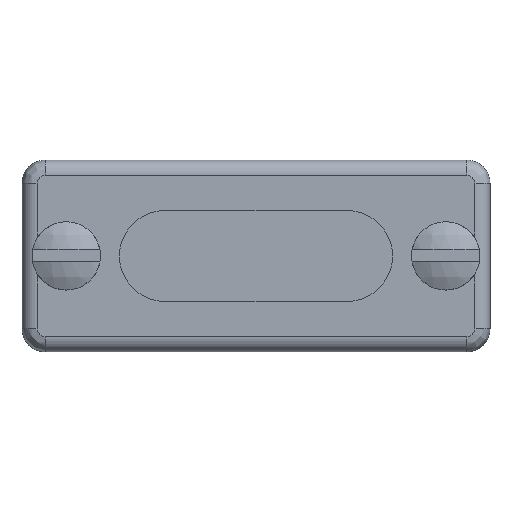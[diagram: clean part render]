
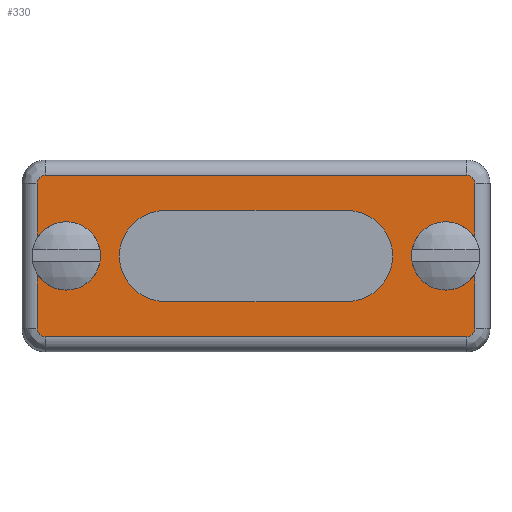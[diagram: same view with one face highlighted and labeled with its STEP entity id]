
A CAD part, top view. The second image highlights one B-rep face of the part: STEP entity #330.
In plain terms, the highlighted planar face has unit normal (0, 0, 1).
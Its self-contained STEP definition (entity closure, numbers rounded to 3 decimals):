
#119=FACE_BOUND('',#945,.T.);
#120=FACE_BOUND('',#946,.T.);
#159=PLANE('',#4485);
#330=ADVANCED_FACE('',(#119,#120),#159,.T.);
#945=EDGE_LOOP('',(#2057,#2058,#2059,#2060,#2061));
#946=EDGE_LOOP('',(#2062,#2063,#2064,#2065,#2066,#2067,#2068,#2069,#2070,
#2071,#2072,#2073,#2074,#2075));
#1224=LINE('',#6426,#1557);
#1225=LINE('',#6429,#1558);
#1226=LINE('',#6430,#1559);
#1227=LINE('',#6434,#1560);
#1228=LINE('',#6438,#1561);
#1229=LINE('',#6441,#1562);
#1230=LINE('',#6445,#1563);
#1231=LINE('',#6449,#1564);
#1557=VECTOR('',#5160,1.);
#1558=VECTOR('',#5163,1.);
#1559=VECTOR('',#5164,1.);
#1560=VECTOR('',#5167,1.);
#1561=VECTOR('',#5170,1.);
#1562=VECTOR('',#5173,1.);
#1563=VECTOR('',#5176,1.);
#1564=VECTOR('',#5179,1.);
#2057=ORIENTED_EDGE('',*,*,#3621,.F.);
#2058=ORIENTED_EDGE('',*,*,#3622,.F.);
#2059=ORIENTED_EDGE('',*,*,#3508,.F.);
#2060=ORIENTED_EDGE('',*,*,#3623,.F.);
#2061=ORIENTED_EDGE('',*,*,#3624,.F.);
#2062=ORIENTED_EDGE('',*,*,#3617,.T.);
#2063=ORIENTED_EDGE('',*,*,#3510,.T.);
#2064=ORIENTED_EDGE('',*,*,#3625,.T.);
#2065=ORIENTED_EDGE('',*,*,#3626,.T.);
#2066=ORIENTED_EDGE('',*,*,#3627,.T.);
#2067=ORIENTED_EDGE('',*,*,#3628,.T.);
#2068=ORIENTED_EDGE('',*,*,#3629,.T.);
#2069=ORIENTED_EDGE('',*,*,#3527,.T.);
#2070=ORIENTED_EDGE('',*,*,#3630,.T.);
#2071=ORIENTED_EDGE('',*,*,#3631,.T.);
#2072=ORIENTED_EDGE('',*,*,#3632,.T.);
#2073=ORIENTED_EDGE('',*,*,#3633,.T.);
#2074=ORIENTED_EDGE('',*,*,#3634,.T.);
#2075=ORIENTED_EDGE('',*,*,#3635,.T.);
#3105=VERTEX_POINT('',#6184);
#3106=VERTEX_POINT('',#6186);
#3107=VERTEX_POINT('',#6190);
#3108=VERTEX_POINT('',#6191);
#3117=VERTEX_POINT('',#6210);
#3124=VERTEX_POINT('',#6224);
#3187=VERTEX_POINT('',#6416);
#3188=VERTEX_POINT('',#6424);
#3189=VERTEX_POINT('',#6425);
#3190=VERTEX_POINT('',#6428);
#3191=VERTEX_POINT('',#6431);
#3192=VERTEX_POINT('',#6433);
#3193=VERTEX_POINT('',#6435);
#3194=VERTEX_POINT('',#6437);
#3195=VERTEX_POINT('',#6440);
#3196=VERTEX_POINT('',#6442);
#3197=VERTEX_POINT('',#6444);
#3198=VERTEX_POINT('',#6446);
#3199=VERTEX_POINT('',#6448);
#3508=EDGE_CURVE('',#3105,#3106,#4115,.T.);
#3510=EDGE_CURVE('',#3107,#3108,#4116,.T.);
#3527=EDGE_CURVE('',#3117,#3124,#4125,.T.);
#3617=EDGE_CURVE('',#3187,#3107,#4179,.T.);
#3621=EDGE_CURVE('',#3188,#3189,#4182,.T.);
#3622=EDGE_CURVE('',#3106,#3188,#1224,.T.);
#3623=EDGE_CURVE('',#3190,#3105,#4183,.T.);
#3624=EDGE_CURVE('',#3189,#3190,#1225,.T.);
#3625=EDGE_CURVE('',#3108,#3191,#1226,.T.);
#3626=EDGE_CURVE('',#3191,#3192,#4184,.T.);
#3627=EDGE_CURVE('',#3192,#3193,#1227,.T.);
#3628=EDGE_CURVE('',#3193,#3194,#4185,.T.);
#3629=EDGE_CURVE('',#3194,#3117,#1228,.T.);
#3630=EDGE_CURVE('',#3124,#3195,#4186,.T.);
#3631=EDGE_CURVE('',#3195,#3196,#1229,.T.);
#3632=EDGE_CURVE('',#3196,#3197,#4187,.T.);
#3633=EDGE_CURVE('',#3197,#3198,#1230,.T.);
#3634=EDGE_CURVE('',#3198,#3199,#4188,.T.);
#3635=EDGE_CURVE('',#3199,#3187,#1231,.T.);
#4115=CIRCLE('',#4368,3.);
#4116=CIRCLE('',#4370,2.25);
#4125=CIRCLE('',#4380,2.25);
#4179=CIRCLE('',#4472,2.25);
#4182=CIRCLE('',#4478,3.);
#4183=CIRCLE('',#4479,3.);
#4184=CIRCLE('',#4480,0.517);
#4185=CIRCLE('',#4481,0.517);
#4186=CIRCLE('',#4482,2.25);
#4187=CIRCLE('',#4483,0.517);
#4188=CIRCLE('',#4484,0.517);
#4368=AXIS2_PLACEMENT_3D('',#6185,#4892,#4893);
#4370=AXIS2_PLACEMENT_3D('',#6189,#4897,#4898);
#4380=AXIS2_PLACEMENT_3D('',#6225,#4925,#4926);
#4472=AXIS2_PLACEMENT_3D('',#6415,#5145,#5146);
#4478=AXIS2_PLACEMENT_3D('',#6423,#5158,#5159);
#4479=AXIS2_PLACEMENT_3D('',#6427,#5161,#5162);
#4480=AXIS2_PLACEMENT_3D('',#6432,#5165,#5166);
#4481=AXIS2_PLACEMENT_3D('',#6436,#5168,#5169);
#4482=AXIS2_PLACEMENT_3D('',#6439,#5171,#5172);
#4483=AXIS2_PLACEMENT_3D('',#6443,#5174,#5175);
#4484=AXIS2_PLACEMENT_3D('',#6447,#5177,#5178);
#4485=AXIS2_PLACEMENT_3D('',#6450,#5180,#5181);
#4892=DIRECTION('',(0.,0.,1.));
#4893=DIRECTION('',(1.,0.,0.));
#4897=DIRECTION('',(0.,0.,-1.));
#4898=DIRECTION('',(1.,0.,0.));
#4925=DIRECTION('',(0.,0.,-1.));
#4926=DIRECTION('',(1.,0.,0.));
#5145=DIRECTION('',(0.,0.,-1.));
#5146=DIRECTION('',(1.,0.,0.));
#5158=DIRECTION('',(0.,0.,1.));
#5159=DIRECTION('',(-1.,0.,0.));
#5160=DIRECTION('',(1.,0.,0.));
#5161=DIRECTION('',(0.,0.,1.));
#5162=DIRECTION('',(1.,0.,0.));
#5163=DIRECTION('',(-1.,0.,0.));
#5164=DIRECTION('',(0.,-1.,0.));
#5165=DIRECTION('',(0.,0.,1.));
#5166=DIRECTION('',(-1.,0.,0.));
#5167=DIRECTION('',(1.,0.,0.));
#5168=DIRECTION('',(0.,0.,1.));
#5169=DIRECTION('',(-1.,0.,0.));
#5170=DIRECTION('',(0.,1.,0.));
#5171=DIRECTION('',(0.,0.,-1.));
#5172=DIRECTION('',(1.,0.,0.));
#5173=DIRECTION('',(0.,1.,0.));
#5174=DIRECTION('',(0.,0.,1.));
#5175=DIRECTION('',(-1.,0.,0.));
#5176=DIRECTION('',(-1.,0.,0.));
#5177=DIRECTION('',(0.,0.,1.));
#5178=DIRECTION('',(-1.,0.,0.));
#5179=DIRECTION('',(0.,-1.,0.));
#5180=DIRECTION('',(0.,0.,1.));
#5181=DIRECTION('',(1.,0.,0.));
#6184=CARTESIAN_POINT('',(-9.,0.,3.));
#6185=CARTESIAN_POINT('',(-6.,0.,3.));
#6186=CARTESIAN_POINT('',(-6.,-3.,3.));
#6189=CARTESIAN_POINT('',(-12.5,0.,3.));
#6190=CARTESIAN_POINT('',(-10.25,0.,3.));
#6191=CARTESIAN_POINT('',(-14.417,-1.177,3.));
#6210=CARTESIAN_POINT('',(14.417,-1.177,3.));
#6224=CARTESIAN_POINT('',(10.25,0.,3.));
#6225=CARTESIAN_POINT('',(12.5,0.,3.));
#6415=CARTESIAN_POINT('',(-12.5,0.,3.));
#6416=CARTESIAN_POINT('',(-14.417,1.177,3.));
#6423=CARTESIAN_POINT('',(6.,0.,3.));
#6424=CARTESIAN_POINT('',(6.,-3.,3.));
#6425=CARTESIAN_POINT('',(6.,3.,3.));
#6426=CARTESIAN_POINT('',(6.,-3.,3.));
#6427=CARTESIAN_POINT('',(-6.,0.,3.));
#6428=CARTESIAN_POINT('',(-6.,3.,3.));
#6429=CARTESIAN_POINT('',(6.,3.,3.));
#6430=CARTESIAN_POINT('',(-14.417,-4.8,3.));
#6431=CARTESIAN_POINT('',(-14.417,-4.8,3.));
#6432=CARTESIAN_POINT('',(-13.9,-4.8,3.));
#6433=CARTESIAN_POINT('',(-13.9,-5.317,3.));
#6434=CARTESIAN_POINT('',(13.9,-5.317,3.));
#6435=CARTESIAN_POINT('',(13.9,-5.317,3.));
#6436=CARTESIAN_POINT('',(13.9,-4.8,3.));
#6437=CARTESIAN_POINT('',(14.417,-4.8,3.));
#6438=CARTESIAN_POINT('',(14.417,4.8,3.));
#6439=CARTESIAN_POINT('',(12.5,0.,3.));
#6440=CARTESIAN_POINT('',(14.417,1.177,3.));
#6441=CARTESIAN_POINT('',(14.417,4.8,3.));
#6442=CARTESIAN_POINT('',(14.417,4.8,3.));
#6443=CARTESIAN_POINT('',(13.9,4.8,3.));
#6444=CARTESIAN_POINT('',(13.9,5.317,3.));
#6445=CARTESIAN_POINT('',(-13.9,5.317,3.));
#6446=CARTESIAN_POINT('',(-13.9,5.317,3.));
#6447=CARTESIAN_POINT('',(-13.9,4.8,3.));
#6448=CARTESIAN_POINT('',(-14.417,4.8,3.));
#6449=CARTESIAN_POINT('',(-14.417,-4.8,3.));
#6450=CARTESIAN_POINT('',(-13.9,-4.8,3.));
